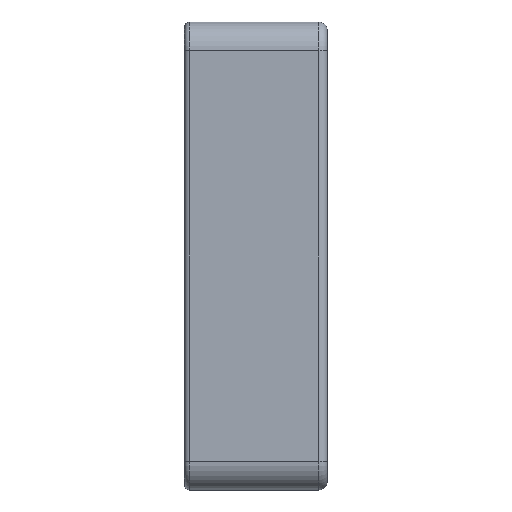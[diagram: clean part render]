
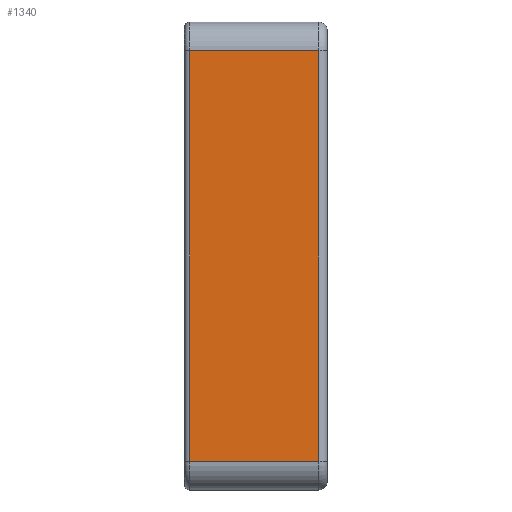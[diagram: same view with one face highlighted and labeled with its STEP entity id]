
A CAD part, left-side view. The second image highlights one B-rep face of the part: STEP entity #1340.
In plain terms, the highlighted planar face has unit normal (-1, 0, 0).
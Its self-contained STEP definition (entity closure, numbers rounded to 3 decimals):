
#213=FACE_OUTER_BOUND('',#305,.T.);
#305=EDGE_LOOP('',(#1197,#1198,#1199,#1200));
#375=LINE('',#7434,#447);
#382=LINE('',#7467,#454);
#383=LINE('',#7470,#455);
#384=LINE('',#7471,#456);
#447=VECTOR('',#1767,316.);
#454=VECTOR('',#1810,99.4);
#455=VECTOR('',#1813,316.);
#456=VECTOR('',#1814,99.4);
#641=VERTEX_POINT('',#7429);
#642=VERTEX_POINT('',#7433);
#650=VERTEX_POINT('',#7465);
#651=VERTEX_POINT('',#7469);
#818=EDGE_CURVE('',#641,#642,#375,.T.);
#835=EDGE_CURVE('',#650,#641,#382,.T.);
#836=EDGE_CURVE('',#651,#650,#383,.T.);
#837=EDGE_CURVE('',#651,#642,#384,.T.);
#1197=ORIENTED_EDGE('',*,*,#818,.F.);
#1198=ORIENTED_EDGE('',*,*,#835,.F.);
#1199=ORIENTED_EDGE('',*,*,#836,.F.);
#1200=ORIENTED_EDGE('',*,*,#837,.T.);
#1262=PLANE('',#1485);
#1340=ADVANCED_FACE('',(#213),#1262,.T.);
#1485=AXIS2_PLACEMENT_3D('',#7468,#1811,#1812);
#1767=DIRECTION('',(0.,0.,-1.));
#1810=DIRECTION('',(0.,-1.,0.));
#1811=DIRECTION('center_axis',(-1.,0.,0.));
#1812=DIRECTION('ref_axis',(0.,0.,1.));
#1813=DIRECTION('',(0.,0.,1.));
#1814=DIRECTION('',(0.,-1.,0.));
#7429=CARTESIAN_POINT('',(-180.,-103.4,158.));
#7433=CARTESIAN_POINT('',(-180.,-103.4,-158.));
#7434=CARTESIAN_POINT('',(-180.,-103.4,158.));
#7465=CARTESIAN_POINT('',(-180.,-4.,158.));
#7467=CARTESIAN_POINT('',(-180.,-4.,158.));
#7468=CARTESIAN_POINT('Origin',(-180.,0.,-180.));
#7469=CARTESIAN_POINT('',(-180.,-4.,-158.));
#7470=CARTESIAN_POINT('',(-180.,-4.,-158.));
#7471=CARTESIAN_POINT('',(-180.,-4.,-158.));
